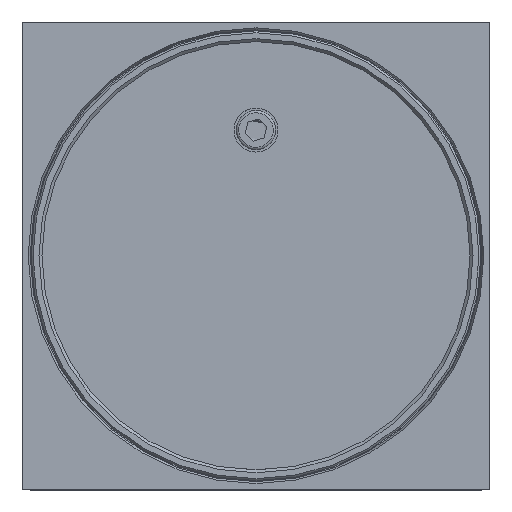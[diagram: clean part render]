
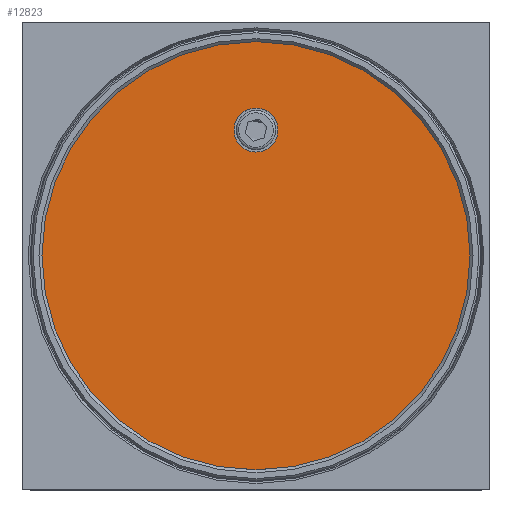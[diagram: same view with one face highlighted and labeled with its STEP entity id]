
A CAD part, top view. The second image highlights one B-rep face of the part: STEP entity #12823.
In plain terms, the highlighted planar face has unit normal (0, 0, 1).
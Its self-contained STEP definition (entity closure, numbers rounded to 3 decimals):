
#538=FACE_BOUND('',#2784,.T.);
#824=PLANE('',#14750);
#1936=FACE_OUTER_BOUND('',#2783,.T.);
#2783=EDGE_LOOP('',(#12038));
#2784=EDGE_LOOP('',(#12039));
#5302=CIRCLE('',#14728,5.6);
#5313=CIRCLE('',#14748,54.5);
#6532=VERTEX_POINT('',#27215);
#6543=VERTEX_POINT('',#27253);
#8356=EDGE_CURVE('',#6532,#6532,#5302,.T.);
#8374=EDGE_CURVE('',#6543,#6543,#5313,.T.);
#12038=ORIENTED_EDGE('',*,*,#8374,.T.);
#12039=ORIENTED_EDGE('',*,*,#8356,.T.);
#12823=ADVANCED_FACE('',(#1936,#538),#824,.T.);
#14728=AXIS2_PLACEMENT_3D('',#27216,#18639,#18640);
#14748=AXIS2_PLACEMENT_3D('',#27254,#18686,#18687);
#14750=AXIS2_PLACEMENT_3D('',#27257,#18691,#18692);
#18639=DIRECTION('center_axis',(0.,0.,-1.));
#18640=DIRECTION('ref_axis',(1.,0.,0.));
#18686=DIRECTION('center_axis',(0.,0.,1.));
#18687=DIRECTION('ref_axis',(1.,0.,0.));
#18691=DIRECTION('center_axis',(0.,0.,1.));
#18692=DIRECTION('ref_axis',(1.,0.,0.));
#27215=CARTESIAN_POINT('',(-5.6,32.,2.5));
#27216=CARTESIAN_POINT('Origin',(0.,32.,2.5));
#27253=CARTESIAN_POINT('',(-54.5,0.,2.5));
#27254=CARTESIAN_POINT('Origin',(0.,0.,2.5));
#27257=CARTESIAN_POINT('Origin',(0.,0.,2.5));
